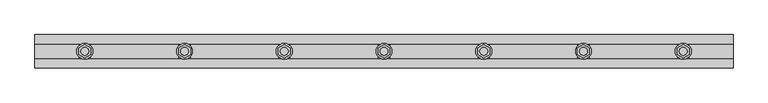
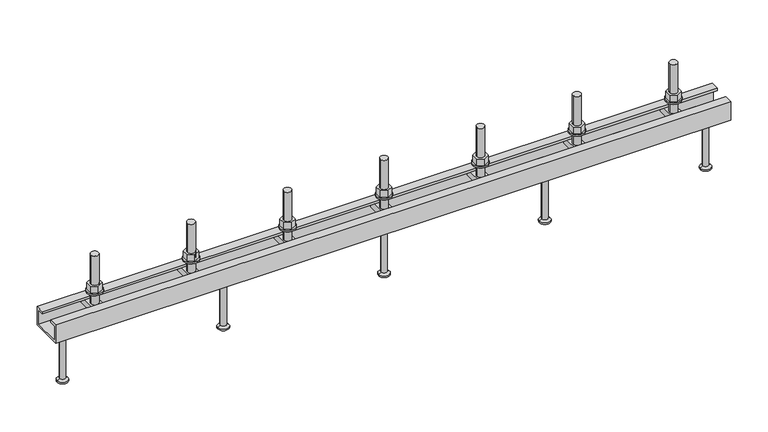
"""IFC4 building model written with IfcOpenShell, lengths in millimetres: fastener geometry, JTA-W JORDAHL® AnchorChannels : JTA-W L=1050 mm."""

from ifc_helpers import new_model, si_unit, point, frame, frame_2d, origin, place, context, project, spatial, polyline, circle_curve, trimmed, segment, composite_curve, outline, extrude, source, transform, mapped, element, save
from ifc_brep_helpers import plane_surface, cylinder_surface, revolved_surface, advanced_brep


def fastener_4ab2e279(model_context):
    return source(origin(), model_context, "Body", "SolidModel", [
        extrude(outline(polyline([(825.0, -10.3923048), (816.0, -5.1961524), (816.0, 5.1961524), (825.0, 10.3923048), (834.0, 5.1961524), (834.0, -5.1961524), (825.0, -10.3923048)]), holes=[composite_curve([segment(trimmed(circle_curve(frame_2d((825.0, 0.0)), 6.0), [point((819.0, 0.0))], [point((831.0, 0.0))], True, "CARTESIAN"), True, "CONTINUOUS"), segment(trimmed(circle_curve(frame_2d((825.0, 0.0)), 6.0), [point((831.0, 0.0))], [point((819.0, 0.0))], True, "CARTESIAN"), True, "CONTINUOUS")], self_intersect=False)]), frame((0.0, 0.0, 17.5), z_axis=(0.0, 0.0, 1.0), x_axis=(1.0, 0.0, 0.0)), (0.0, 0.0, 1.0), 10.8),
        extrude(outline(composite_curve([segment(trimmed(circle_curve(frame_2d((825.0, 0.0)), 12.0), [point((813.0, 0.0))], [point((837.0, 0.0))], False, "CARTESIAN"), True, "CONTINUOUS"), segment(trimmed(circle_curve(frame_2d((825.0, 0.0)), 12.0), [point((837.0, 0.0))], [point((813.0, 0.0))], False, "CARTESIAN"), True, "CONTINUOUS")], self_intersect=False), holes=[composite_curve([segment(trimmed(circle_curve(frame_2d((825.0, 0.0)), 6.5), [point((818.5, 0.0))], [point((831.5, 0.0))], True, "CARTESIAN"), True, "CONTINUOUS"), segment(trimmed(circle_curve(frame_2d((825.0, 0.0)), 6.5), [point((831.5, 0.0))], [point((818.5, 0.0))], True, "CARTESIAN"), True, "CONTINUOUS")], self_intersect=False)]), frame((0.0, 0.0, 15.0), z_axis=(0.0, 0.0, 1.0), x_axis=(1.0, 0.0, 0.0)), (0.0, 0.0, 1.0), 2.5),
        extrude(outline(polyline([(675.0, -10.3923048), (666.0, -5.1961524), (666.0, 5.1961524), (675.0, 10.3923048), (684.0, 5.1961524), (684.0, -5.1961524), (675.0, -10.3923048)]), holes=[composite_curve([segment(trimmed(circle_curve(frame_2d((675.0, 0.0)), 6.0), [point((669.0, 0.0))], [point((681.0, 0.0))], True, "CARTESIAN"), True, "CONTINUOUS"), segment(trimmed(circle_curve(frame_2d((675.0, 0.0)), 6.0), [point((681.0, 0.0))], [point((669.0, 0.0))], True, "CARTESIAN"), True, "CONTINUOUS")], self_intersect=False)]), frame((0.0, 0.0, 17.5), z_axis=(0.0, 0.0, 1.0), x_axis=(1.0, 0.0, 0.0)), (0.0, 0.0, 1.0), 10.8),
        extrude(outline(composite_curve([segment(trimmed(circle_curve(frame_2d((675.0, 0.0)), 12.0), [point((663.0, 0.0))], [point((687.0, 0.0))], False, "CARTESIAN"), True, "CONTINUOUS"), segment(trimmed(circle_curve(frame_2d((675.0, 0.0)), 12.0), [point((687.0, 0.0))], [point((663.0, 0.0))], False, "CARTESIAN"), True, "CONTINUOUS")], self_intersect=False), holes=[composite_curve([segment(trimmed(circle_curve(frame_2d((675.0, 0.0)), 6.5), [point((668.5, 0.0))], [point((681.5, 0.0))], True, "CARTESIAN"), True, "CONTINUOUS"), segment(trimmed(circle_curve(frame_2d((675.0, 0.0)), 6.5), [point((681.5, 0.0))], [point((668.5, 0.0))], True, "CARTESIAN"), True, "CONTINUOUS")], self_intersect=False)]), frame((0.0, 0.0, 15.0), z_axis=(0.0, 0.0, 1.0), x_axis=(1.0, 0.0, 0.0)), (0.0, 0.0, 1.0), 2.5),
        extrude(outline(polyline([(525.0, -10.3923048), (516.0, -5.1961524), (516.0, 5.1961524), (525.0, 10.3923048), (534.0, 5.1961524), (534.0, -5.1961524), (525.0, -10.3923048)]), holes=[composite_curve([segment(trimmed(circle_curve(frame_2d((525.0, 0.0)), 6.0), [point((519.0, 0.0))], [point((531.0, 0.0))], True, "CARTESIAN"), True, "CONTINUOUS"), segment(trimmed(circle_curve(frame_2d((525.0, 0.0)), 6.0), [point((531.0, 0.0))], [point((519.0, 0.0))], True, "CARTESIAN"), True, "CONTINUOUS")], self_intersect=False)]), frame((0.0, 0.0, 17.5), z_axis=(0.0, 0.0, 1.0), x_axis=(1.0, 0.0, 0.0)), (0.0, 0.0, 1.0), 10.8),
        extrude(outline(composite_curve([segment(trimmed(circle_curve(frame_2d((525.0, 0.0)), 12.0), [point((513.0, 0.0))], [point((537.0, 0.0))], False, "CARTESIAN"), True, "CONTINUOUS"), segment(trimmed(circle_curve(frame_2d((525.0, 0.0)), 12.0), [point((537.0, 0.0))], [point((513.0, 0.0))], False, "CARTESIAN"), True, "CONTINUOUS")], self_intersect=False), holes=[composite_curve([segment(trimmed(circle_curve(frame_2d((525.0, 0.0)), 6.5), [point((518.5, 0.0))], [point((531.5, 0.0))], True, "CARTESIAN"), True, "CONTINUOUS"), segment(trimmed(circle_curve(frame_2d((525.0, 0.0)), 6.5), [point((531.5, 0.0))], [point((518.5, 0.0))], True, "CARTESIAN"), True, "CONTINUOUS")], self_intersect=False)]), frame((0.0, 0.0, 15.0), z_axis=(0.0, 0.0, 1.0), x_axis=(1.0, 0.0, 0.0)), (0.0, 0.0, 1.0), 2.5),
        extrude(outline(polyline([(375.0, -10.3923048), (366.0, -5.1961524), (366.0, 5.1961524), (375.0, 10.3923048), (384.0, 5.1961524), (384.0, -5.1961524), (375.0, -10.3923048)]), holes=[composite_curve([segment(trimmed(circle_curve(frame_2d((375.0, 0.0)), 6.0), [point((369.0, 0.0))], [point((381.0, 0.0))], True, "CARTESIAN"), True, "CONTINUOUS"), segment(trimmed(circle_curve(frame_2d((375.0, 0.0)), 6.0), [point((381.0, 0.0))], [point((369.0, 0.0))], True, "CARTESIAN"), True, "CONTINUOUS")], self_intersect=False)]), frame((0.0, 0.0, 17.5), z_axis=(0.0, 0.0, 1.0), x_axis=(1.0, 0.0, 0.0)), (0.0, 0.0, 1.0), 10.8),
        extrude(outline(composite_curve([segment(trimmed(circle_curve(frame_2d((375.0, 0.0)), 12.0), [point((363.0, 0.0))], [point((387.0, 0.0))], False, "CARTESIAN"), True, "CONTINUOUS"), segment(trimmed(circle_curve(frame_2d((375.0, 0.0)), 12.0), [point((387.0, 0.0))], [point((363.0, 0.0))], False, "CARTESIAN"), True, "CONTINUOUS")], self_intersect=False), holes=[composite_curve([segment(trimmed(circle_curve(frame_2d((375.0, 0.0)), 6.5), [point((368.5, 0.0))], [point((381.5, 0.0))], True, "CARTESIAN"), True, "CONTINUOUS"), segment(trimmed(circle_curve(frame_2d((375.0, 0.0)), 6.5), [point((381.5, 0.0))], [point((368.5, 0.0))], True, "CARTESIAN"), True, "CONTINUOUS")], self_intersect=False)]), frame((0.0, 0.0, 15.0), z_axis=(0.0, 0.0, 1.0), x_axis=(1.0, 0.0, 0.0)), (0.0, 0.0, 1.0), 2.5),
        extrude(outline(polyline([(225.0, -10.3923048), (216.0, -5.1961524), (216.0, 5.1961524), (225.0, 10.3923048), (234.0, 5.1961524), (234.0, -5.1961524), (225.0, -10.3923048)]), holes=[composite_curve([segment(trimmed(circle_curve(frame_2d((225.0, 0.0)), 6.0), [point((219.0, 0.0))], [point((231.0, 0.0))], True, "CARTESIAN"), True, "CONTINUOUS"), segment(trimmed(circle_curve(frame_2d((225.0, 0.0)), 6.0), [point((231.0, 0.0))], [point((219.0, 0.0))], True, "CARTESIAN"), True, "CONTINUOUS")], self_intersect=False)]), frame((0.0, 0.0, 17.5), z_axis=(0.0, 0.0, 1.0), x_axis=(1.0, 0.0, 0.0)), (0.0, 0.0, 1.0), 10.8),
        extrude(outline(composite_curve([segment(trimmed(circle_curve(frame_2d((225.0, 0.0)), 12.0), [point((213.0, 0.0))], [point((237.0, 0.0))], False, "CARTESIAN"), True, "CONTINUOUS"), segment(trimmed(circle_curve(frame_2d((225.0, 0.0)), 12.0), [point((237.0, 0.0))], [point((213.0, 0.0))], False, "CARTESIAN"), True, "CONTINUOUS")], self_intersect=False), holes=[composite_curve([segment(trimmed(circle_curve(frame_2d((225.0, 0.0)), 6.5), [point((218.5, 0.0))], [point((231.5, 0.0))], True, "CARTESIAN"), True, "CONTINUOUS"), segment(trimmed(circle_curve(frame_2d((225.0, 0.0)), 6.5), [point((231.5, 0.0))], [point((218.5, 0.0))], True, "CARTESIAN"), True, "CONTINUOUS")], self_intersect=False)]), frame((0.0, 0.0, 15.0), z_axis=(0.0, 0.0, 1.0), x_axis=(1.0, 0.0, 0.0)), (0.0, 0.0, 1.0), 2.5),
        advanced_brep(
        [(833.5, -20.7, -4.0), (833.5, -20.7, -14.0), (833.5, 20.7, -14.0), (833.5, 20.7, -4.0), (816.5, -20.7, -4.0), (816.5, 20.7, -4.0), (816.5, 20.7, -14.0), (816.5, -20.7, -14.0), (831.0, 0.0, -4.0), (819.0, 0.0, -4.0), (819.0, 0.0, 76.0), (831.0, 0.0, 76.0)],
        [
            (0, 1),
            (1, 2),
            (2, 3),
            (3, 0),
            (4, 5),
            (5, 6),
            (6, 7),
            (7, 4),
            (3, 5),
            (4, 0),
            (8, 9, circle_curve(frame((825.0, 0.0, -4.0), z_axis=(0.0, 0.0, -1.0), x_axis=(1.0, 0.0, 0.0)), 6.0)),
            (9, 8, circle_curve(frame((825.0, 0.0, -4.0), z_axis=(0.0, 0.0, -1.0), x_axis=(1.0, 0.0, 0.0)), 6.0)),
            (2, 6),
            (1, 7),
            (10, 11, circle_curve(frame((825.0, 0.0, 76.0), z_axis=(0.0, 0.0, 1.0), x_axis=(1.0, 0.0, 0.0)), 6.0)),
            (11, 10, circle_curve(frame((825.0, 0.0, 76.0), z_axis=(0.0, 0.0, 1.0), x_axis=(1.0, 0.0, 0.0)), 6.0)),
            (11, 8),
            (9, 10),
        ],
        [
            plane_surface(frame((833.5, 20.7, -4.0), z_axis=(1.0, 0.0, 0.0), x_axis=(0.0, 1.0, 0.0))),
            plane_surface(frame((816.5, 20.7, -4.0), z_axis=(-1.0, 0.0, 0.0), x_axis=(0.0, -1.0, 0.0))),
            plane_surface(frame((833.5, -20.7, -4.0), z_axis=(0.0, 0.0, 1.0), x_axis=(-1.0, 0.0, 0.0))),
            plane_surface(frame((833.5, 20.7, -4.0), z_axis=(0.0, 1.0, 0.0), x_axis=(-1.0, 0.0, 0.0))),
            plane_surface(frame((833.5, 20.7, -14.0), z_axis=(0.0, 0.0, -1.0), x_axis=(-1.0, 0.0, 0.0))),
            plane_surface(frame((833.5, -20.7, -14.0), z_axis=(0.0, -1.0, 0.0), x_axis=(-1.0, 0.0, 0.0))),
            plane_surface(frame((831.0, 0.0, 76.0), z_axis=(0.0, 0.0, 1.0), x_axis=(0.0, -1.0, 0.0))),
            cylinder_surface(frame((825.0, 0.0, -4.0), z_axis=(0.0, 0.0, 1.0), x_axis=(1.0, 0.0, 0.0)), 6.0),
        ],
        [
            (0, [[1, 2, 3, 4]]),
            (1, [[5, 6, 7, 8]]),
            (2, [[9, -5, 10, -4], [11, 12]]),
            (3, [[13, -6, -9, -3]]),
            (4, [[14, -7, -13, -2]]),
            (5, [[-10, -8, -14, -1]]),
            (6, [[15, 16]]),
            (7, [[17, -12, 18, -16]]),
            (7, [[-18, -11, -17, -15]]),
        ],
    ),
        advanced_brep(
        [(683.5, -20.7, -4.0), (683.5, -20.7, -14.0), (683.5, 20.7, -14.0), (683.5, 20.7, -4.0), (666.5, -20.7, -4.0), (666.5, 20.7, -4.0), (666.5, 20.7, -14.0), (666.5, -20.7, -14.0), (681.0, 0.0, -4.0), (669.0, 0.0, -4.0), (669.0, 0.0, 76.0), (681.0, 0.0, 76.0)],
        [
            (0, 1),
            (1, 2),
            (2, 3),
            (3, 0),
            (4, 5),
            (5, 6),
            (6, 7),
            (7, 4),
            (3, 5),
            (4, 0),
            (8, 9, circle_curve(frame((675.0, 0.0, -4.0), z_axis=(0.0, 0.0, -1.0), x_axis=(1.0, 0.0, 0.0)), 6.0)),
            (9, 8, circle_curve(frame((675.0, 0.0, -4.0), z_axis=(0.0, 0.0, -1.0), x_axis=(1.0, 0.0, 0.0)), 6.0)),
            (2, 6),
            (1, 7),
            (10, 11, circle_curve(frame((675.0, 0.0, 76.0), z_axis=(0.0, 0.0, 1.0), x_axis=(1.0, 0.0, 0.0)), 6.0)),
            (11, 10, circle_curve(frame((675.0, 0.0, 76.0), z_axis=(0.0, 0.0, 1.0), x_axis=(1.0, 0.0, 0.0)), 6.0)),
            (11, 8),
            (9, 10),
        ],
        [
            plane_surface(frame((683.5, 20.7, -4.0), z_axis=(1.0, 0.0, 0.0), x_axis=(0.0, 1.0, 0.0))),
            plane_surface(frame((666.5, 20.7, -4.0), z_axis=(-1.0, 0.0, 0.0), x_axis=(0.0, -1.0, 0.0))),
            plane_surface(frame((683.5, -20.7, -4.0), z_axis=(0.0, 0.0, 1.0), x_axis=(-1.0, 0.0, 0.0))),
            plane_surface(frame((683.5, 20.7, -4.0), z_axis=(0.0, 1.0, 0.0), x_axis=(-1.0, 0.0, 0.0))),
            plane_surface(frame((683.5, 20.7, -14.0), z_axis=(0.0, 0.0, -1.0), x_axis=(-1.0, 0.0, 0.0))),
            plane_surface(frame((683.5, -20.7, -14.0), z_axis=(0.0, -1.0, 0.0), x_axis=(-1.0, 0.0, 0.0))),
            plane_surface(frame((681.0, 0.0, 76.0), z_axis=(0.0, 0.0, 1.0), x_axis=(0.0, -1.0, 0.0))),
            cylinder_surface(frame((675.0, 0.0, -4.0), z_axis=(0.0, 0.0, 1.0), x_axis=(1.0, 0.0, 0.0)), 6.0),
        ],
        [
            (0, [[1, 2, 3, 4]]),
            (1, [[5, 6, 7, 8]]),
            (2, [[9, -5, 10, -4], [11, 12]]),
            (3, [[13, -6, -9, -3]]),
            (4, [[14, -7, -13, -2]]),
            (5, [[-10, -8, -14, -1]]),
            (6, [[15, 16]]),
            (7, [[17, -12, 18, -16]]),
            (7, [[-18, -11, -17, -15]]),
        ],
    ),
        advanced_brep(
        [(533.5, -20.7, -4.0), (533.5, -20.7, -14.0), (533.5, 20.7, -14.0), (533.5, 20.7, -4.0), (516.5, -20.7, -4.0), (516.5, 20.7, -4.0), (516.5, 20.7, -14.0), (516.5, -20.7, -14.0), (531.0, 0.0, -4.0), (519.0, 0.0, -4.0), (519.0, 0.0, 76.0), (531.0, 0.0, 76.0)],
        [
            (0, 1),
            (1, 2),
            (2, 3),
            (3, 0),
            (4, 5),
            (5, 6),
            (6, 7),
            (7, 4),
            (3, 5),
            (4, 0),
            (8, 9, circle_curve(frame((525.0, 0.0, -4.0), z_axis=(0.0, 0.0, -1.0), x_axis=(1.0, 0.0, 0.0)), 6.0)),
            (9, 8, circle_curve(frame((525.0, 0.0, -4.0), z_axis=(0.0, 0.0, -1.0), x_axis=(1.0, 0.0, 0.0)), 6.0)),
            (2, 6),
            (1, 7),
            (10, 11, circle_curve(frame((525.0, 0.0, 76.0), z_axis=(0.0, 0.0, 1.0), x_axis=(1.0, 0.0, 0.0)), 6.0)),
            (11, 10, circle_curve(frame((525.0, 0.0, 76.0), z_axis=(0.0, 0.0, 1.0), x_axis=(1.0, 0.0, 0.0)), 6.0)),
            (11, 8),
            (9, 10),
        ],
        [
            plane_surface(frame((533.5, 20.7, -4.0), z_axis=(1.0, 0.0, 0.0), x_axis=(0.0, 1.0, 0.0))),
            plane_surface(frame((516.5, 20.7, -4.0), z_axis=(-1.0, 0.0, 0.0), x_axis=(0.0, -1.0, 0.0))),
            plane_surface(frame((533.5, -20.7, -4.0), z_axis=(0.0, 0.0, 1.0), x_axis=(-1.0, 0.0, 0.0))),
            plane_surface(frame((533.5, 20.7, -4.0), z_axis=(0.0, 1.0, 0.0), x_axis=(-1.0, 0.0, 0.0))),
            plane_surface(frame((533.5, 20.7, -14.0), z_axis=(0.0, 0.0, -1.0), x_axis=(-1.0, 0.0, 0.0))),
            plane_surface(frame((533.5, -20.7, -14.0), z_axis=(0.0, -1.0, 0.0), x_axis=(-1.0, 0.0, 0.0))),
            plane_surface(frame((531.0, 0.0, 76.0), z_axis=(0.0, 0.0, 1.0), x_axis=(0.0, -1.0, 0.0))),
            cylinder_surface(frame((525.0, 0.0, -4.0), z_axis=(0.0, 0.0, 1.0), x_axis=(1.0, 0.0, 0.0)), 6.0),
        ],
        [
            (0, [[1, 2, 3, 4]]),
            (1, [[5, 6, 7, 8]]),
            (2, [[9, -5, 10, -4], [11, 12]]),
            (3, [[13, -6, -9, -3]]),
            (4, [[14, -7, -13, -2]]),
            (5, [[-10, -8, -14, -1]]),
            (6, [[15, 16]]),
            (7, [[17, -12, 18, -16]]),
            (7, [[-18, -11, -17, -15]]),
        ],
    ),
        advanced_brep(
        [(383.5, -20.7, -4.0), (383.5, -20.7, -14.0), (383.5, 20.7, -14.0), (383.5, 20.7, -4.0), (366.5, -20.7, -4.0), (366.5, 20.7, -4.0), (366.5, 20.7, -14.0), (366.5, -20.7, -14.0), (381.0, 0.0, -4.0), (369.0, 0.0, -4.0), (369.0, 0.0, 76.0), (381.0, 0.0, 76.0)],
        [
            (0, 1),
            (1, 2),
            (2, 3),
            (3, 0),
            (4, 5),
            (5, 6),
            (6, 7),
            (7, 4),
            (3, 5),
            (4, 0),
            (8, 9, circle_curve(frame((375.0, 0.0, -4.0), z_axis=(0.0, 0.0, -1.0), x_axis=(1.0, 0.0, 0.0)), 6.0)),
            (9, 8, circle_curve(frame((375.0, 0.0, -4.0), z_axis=(0.0, 0.0, -1.0), x_axis=(1.0, 0.0, 0.0)), 6.0)),
            (2, 6),
            (1, 7),
            (10, 11, circle_curve(frame((375.0, 0.0, 76.0), z_axis=(0.0, 0.0, 1.0), x_axis=(1.0, 0.0, 0.0)), 6.0)),
            (11, 10, circle_curve(frame((375.0, 0.0, 76.0), z_axis=(0.0, 0.0, 1.0), x_axis=(1.0, 0.0, 0.0)), 6.0)),
            (11, 8),
            (9, 10),
        ],
        [
            plane_surface(frame((383.5, 20.7, -4.0), z_axis=(1.0, 0.0, 0.0), x_axis=(0.0, 1.0, 0.0))),
            plane_surface(frame((366.5, 20.7, -4.0), z_axis=(-1.0, 0.0, 0.0), x_axis=(0.0, -1.0, 0.0))),
            plane_surface(frame((383.5, -20.7, -4.0), z_axis=(0.0, 0.0, 1.0), x_axis=(-1.0, 0.0, 0.0))),
            plane_surface(frame((383.5, 20.7, -4.0), z_axis=(0.0, 1.0, 0.0), x_axis=(-1.0, 0.0, 0.0))),
            plane_surface(frame((383.5, 20.7, -14.0), z_axis=(0.0, 0.0, -1.0), x_axis=(-1.0, 0.0, 0.0))),
            plane_surface(frame((383.5, -20.7, -14.0), z_axis=(0.0, -1.0, 0.0), x_axis=(-1.0, 0.0, 0.0))),
            plane_surface(frame((381.0, 0.0, 76.0), z_axis=(0.0, 0.0, 1.0), x_axis=(0.0, -1.0, 0.0))),
            cylinder_surface(frame((375.0, 0.0, -4.0), z_axis=(0.0, 0.0, 1.0), x_axis=(1.0, 0.0, 0.0)), 6.0),
        ],
        [
            (0, [[1, 2, 3, 4]]),
            (1, [[5, 6, 7, 8]]),
            (2, [[9, -5, 10, -4], [11, 12]]),
            (3, [[13, -6, -9, -3]]),
            (4, [[14, -7, -13, -2]]),
            (5, [[-10, -8, -14, -1]]),
            (6, [[15, 16]]),
            (7, [[17, -12, 18, -16]]),
            (7, [[-18, -11, -17, -15]]),
        ],
    ),
        advanced_brep(
        [(233.5, -20.7, -4.0), (233.5, -20.7, -14.0), (233.5, 20.7, -14.0), (233.5, 20.7, -4.0), (216.5, -20.7, -4.0), (216.5, 20.7, -4.0), (216.5, 20.7, -14.0), (216.5, -20.7, -14.0), (231.0, 0.0, -4.0), (219.0, 0.0, -4.0), (219.0, 0.0, 76.0), (231.0, 0.0, 76.0)],
        [
            (0, 1),
            (1, 2),
            (2, 3),
            (3, 0),
            (4, 5),
            (5, 6),
            (6, 7),
            (7, 4),
            (3, 5),
            (4, 0),
            (8, 9, circle_curve(frame((225.0, 0.0, -4.0), z_axis=(0.0, 0.0, -1.0), x_axis=(1.0, 0.0, 0.0)), 6.0)),
            (9, 8, circle_curve(frame((225.0, 0.0, -4.0), z_axis=(0.0, 0.0, -1.0), x_axis=(1.0, 0.0, 0.0)), 6.0)),
            (2, 6),
            (1, 7),
            (10, 11, circle_curve(frame((225.0, 0.0, 76.0), z_axis=(0.0, 0.0, 1.0), x_axis=(1.0, 0.0, 0.0)), 6.0)),
            (11, 10, circle_curve(frame((225.0, 0.0, 76.0), z_axis=(0.0, 0.0, 1.0), x_axis=(1.0, 0.0, 0.0)), 6.0)),
            (11, 8),
            (9, 10),
        ],
        [
            plane_surface(frame((233.5, 20.7, -4.0), z_axis=(1.0, 0.0, 0.0), x_axis=(0.0, 1.0, 0.0))),
            plane_surface(frame((216.5, 20.7, -4.0), z_axis=(-1.0, 0.0, 0.0), x_axis=(0.0, -1.0, 0.0))),
            plane_surface(frame((233.5, -20.7, -4.0), z_axis=(0.0, 0.0, 1.0), x_axis=(-1.0, 0.0, 0.0))),
            plane_surface(frame((233.5, 20.7, -4.0), z_axis=(0.0, 1.0, 0.0), x_axis=(-1.0, 0.0, 0.0))),
            plane_surface(frame((233.5, 20.7, -14.0), z_axis=(0.0, 0.0, -1.0), x_axis=(-1.0, 0.0, 0.0))),
            plane_surface(frame((233.5, -20.7, -14.0), z_axis=(0.0, -1.0, 0.0), x_axis=(-1.0, 0.0, 0.0))),
            plane_surface(frame((231.0, 0.0, 76.0), z_axis=(0.0, 0.0, 1.0), x_axis=(0.0, -1.0, 0.0))),
            cylinder_surface(frame((225.0, 0.0, -4.0), z_axis=(0.0, 0.0, 1.0), x_axis=(1.0, 0.0, 0.0)), 6.0),
        ],
        [
            (0, [[1, 2, 3, 4]]),
            (1, [[5, 6, 7, 8]]),
            (2, [[9, -5, 10, -4], [11, 12]]),
            (3, [[13, -6, -9, -3]]),
            (4, [[14, -7, -13, -2]]),
            (5, [[-10, -8, -14, -1]]),
            (6, [[15, 16]]),
            (7, [[17, -12, 18, -16]]),
            (7, [[-18, -11, -17, -15]]),
        ],
    ),
        advanced_brep(
        [(775.0, 0.0, -30.0), (761.5, 0.0, -30.0), (788.5, 0.0, -30.0), (766.5, 0.0, -115.0), (775.0, 0.0, -115.0), (783.5, 0.0, -115.0), (766.5, 0.0, -113.0), (783.5, 0.0, -113.0), (770.5, 0.0, -110.6905989), (779.5, 0.0, -110.6905989), (770.5, 0.0, -32.5), (779.5, 0.0, -32.5)],
        [
            (0, 1),
            (1, 2, circle_curve(frame((775.0, 0.0, -30.0), z_axis=(0.0, 0.0, 1.0), x_axis=(1.0, 0.0, 0.0)), 13.5)),
            (2, 0),
            (2, 1, circle_curve(frame((775.0, 0.0, -30.0), z_axis=(0.0, 0.0, 1.0), x_axis=(1.0, 0.0, 0.0)), 13.5)),
            (3, 4),
            (4, 5),
            (5, 3, circle_curve(frame((775.0, 0.0, -115.0), z_axis=(0.0, 0.0, -1.0), x_axis=(1.0, 0.0, 0.0)), 8.5)),
            (3, 5, circle_curve(frame((775.0, 0.0, -115.0), z_axis=(0.0, 0.0, -1.0), x_axis=(1.0, 0.0, 0.0)), 8.5)),
            (6, 3),
            (5, 7),
            (7, 6, circle_curve(frame((775.0, 0.0, -113.0), z_axis=(0.0, 0.0, -1.0), x_axis=(1.0, 0.0, 0.0)), 8.5)),
            (6, 7, circle_curve(frame((775.0, 0.0, -113.0), z_axis=(0.0, 0.0, -1.0), x_axis=(1.0, 0.0, 0.0)), 8.5)),
            (8, 6),
            (7, 9),
            (9, 8, circle_curve(frame((775.0, 0.0, -110.6905989), z_axis=(0.0, 0.0, -1.0), x_axis=(1.0, 0.0, 0.0)), 4.5)),
            (8, 9, circle_curve(frame((775.0, 0.0, -110.6905989), z_axis=(0.0, 0.0, -1.0), x_axis=(1.0, 0.0, 0.0)), 4.5)),
            (10, 8),
            (9, 11),
            (11, 10, circle_curve(frame((775.0, 0.0, -32.5), z_axis=(0.0, 0.0, -1.0), x_axis=(1.0, 0.0, 0.0)), 4.5)),
            (10, 11, circle_curve(frame((775.0, 0.0, -32.5), z_axis=(0.0, 0.0, -1.0), x_axis=(1.0, 0.0, 0.0)), 4.5)),
            (1, 10),
            (11, 2),
        ],
        [
            plane_surface(frame((775.0, 0.0, -30.0), z_axis=(0.0, 0.0, 1.0), x_axis=(1.0, 0.0, 0.0))),
            plane_surface(frame((775.0, 0.0, -115.0), z_axis=(0.0, 0.0, -1.0), x_axis=(1.0, 0.0, 0.0))),
            cylinder_surface(frame((775.0, 0.0, 2299.3150031), z_axis=(0.0, 0.0, 1.0), x_axis=(1.0, 0.0, 0.0)), 8.5),
            revolved_surface(polyline([(783.5, 0.0, -113.0), (779.5, 0.0, -110.6905989)]), (775.0, 0.0, 2299.3150031), (0.0, 0.0, 1.0)),
            cylinder_surface(frame((775.0, 0.0, 2299.3150031), z_axis=(0.0, 0.0, 1.0), x_axis=(1.0, 0.0, 0.0)), 4.5),
            revolved_surface(polyline([(779.5, 0.0, -32.5), (788.5, 0.0, -30.0)]), (775.0, 0.0, 2299.3150031), (0.0, 0.0, 1.0)),
        ],
        [
            (0, [[1, 2, 3]]),
            (0, [[-3, 4, -1]]),
            (1, [[5, 6, 7]]),
            (1, [[-6, -5, 8]]),
            (2, [[9, -7, 10, 11]]),
            (2, [[-10, -8, -9, 12]]),
            (3, [[13, -11, 14, 15]]),
            (3, [[-14, -12, -13, 16]]),
            (4, [[17, -15, 18, 19]]),
            (4, [[-18, -16, -17, 20]]),
            (5, [[21, -19, 22, -2]]),
            (5, [[-22, -20, -21, -4]]),
        ],
    ),
        advanced_brep(
        [(525.0, 0.0, -30.0), (511.5, 0.0, -30.0), (538.5, 0.0, -30.0), (516.5, 0.0, -115.0), (525.0, 0.0, -115.0), (533.5, 0.0, -115.0), (516.5, 0.0, -113.0), (533.5, 0.0, -113.0), (520.5, 0.0, -110.6905989), (529.5, 0.0, -110.6905989), (520.5, 0.0, -32.5), (529.5, 0.0, -32.5)],
        [
            (0, 1),
            (1, 2, circle_curve(frame((525.0, 0.0, -30.0), z_axis=(0.0, 0.0, 1.0), x_axis=(1.0, 0.0, 0.0)), 13.5)),
            (2, 0),
            (2, 1, circle_curve(frame((525.0, 0.0, -30.0), z_axis=(0.0, 0.0, 1.0), x_axis=(1.0, 0.0, 0.0)), 13.5)),
            (3, 4),
            (4, 5),
            (5, 3, circle_curve(frame((525.0, 0.0, -115.0), z_axis=(0.0, 0.0, -1.0), x_axis=(1.0, 0.0, 0.0)), 8.5)),
            (3, 5, circle_curve(frame((525.0, 0.0, -115.0), z_axis=(0.0, 0.0, -1.0), x_axis=(1.0, 0.0, 0.0)), 8.5)),
            (6, 3),
            (5, 7),
            (7, 6, circle_curve(frame((525.0, 0.0, -113.0), z_axis=(0.0, 0.0, -1.0), x_axis=(1.0, 0.0, 0.0)), 8.5)),
            (6, 7, circle_curve(frame((525.0, 0.0, -113.0), z_axis=(0.0, 0.0, -1.0), x_axis=(1.0, 0.0, 0.0)), 8.5)),
            (8, 6),
            (7, 9),
            (9, 8, circle_curve(frame((525.0, 0.0, -110.6905989), z_axis=(0.0, 0.0, -1.0), x_axis=(1.0, 0.0, 0.0)), 4.5)),
            (8, 9, circle_curve(frame((525.0, 0.0, -110.6905989), z_axis=(0.0, 0.0, -1.0), x_axis=(1.0, 0.0, 0.0)), 4.5)),
            (10, 8),
            (9, 11),
            (11, 10, circle_curve(frame((525.0, 0.0, -32.5), z_axis=(0.0, 0.0, -1.0), x_axis=(1.0, 0.0, 0.0)), 4.5)),
            (10, 11, circle_curve(frame((525.0, 0.0, -32.5), z_axis=(0.0, 0.0, -1.0), x_axis=(1.0, 0.0, 0.0)), 4.5)),
            (1, 10),
            (11, 2),
        ],
        [
            plane_surface(frame((525.0, 0.0, -30.0), z_axis=(0.0, 0.0, 1.0), x_axis=(1.0, 0.0, 0.0))),
            plane_surface(frame((525.0, 0.0, -115.0), z_axis=(0.0, 0.0, -1.0), x_axis=(1.0, 0.0, 0.0))),
            cylinder_surface(frame((525.0, 0.0, 2299.3150031), z_axis=(0.0, 0.0, 1.0), x_axis=(1.0, 0.0, 0.0)), 8.5),
            revolved_surface(polyline([(533.5, 0.0, -113.0), (529.5, 0.0, -110.6905989)]), (525.0, 0.0, 2299.3150031), (0.0, 0.0, 1.0)),
            cylinder_surface(frame((525.0, 0.0, 2299.3150031), z_axis=(0.0, 0.0, 1.0), x_axis=(1.0, 0.0, 0.0)), 4.5),
            revolved_surface(polyline([(529.5, 0.0, -32.5), (538.5, 0.0, -30.0)]), (525.0, 0.0, 2299.3150031), (0.0, 0.0, 1.0)),
        ],
        [
            (0, [[1, 2, 3]]),
            (0, [[-3, 4, -1]]),
            (1, [[5, 6, 7]]),
            (1, [[-6, -5, 8]]),
            (2, [[9, -7, 10, 11]]),
            (2, [[-10, -8, -9, 12]]),
            (3, [[13, -11, 14, 15]]),
            (3, [[-14, -12, -13, 16]]),
            (4, [[17, -15, 18, 19]]),
            (4, [[-18, -16, -17, 20]]),
            (5, [[21, -19, 22, -2]]),
            (5, [[-22, -20, -21, -4]]),
        ],
    ),
        advanced_brep(
        [(275.0, 0.0, -30.0), (261.5, 0.0, -30.0), (288.5, 0.0, -30.0), (266.5, 0.0, -115.0), (275.0, 0.0, -115.0), (283.5, 0.0, -115.0), (266.5, 0.0, -113.0), (283.5, 0.0, -113.0), (270.5, 0.0, -110.6905989), (279.5, 0.0, -110.6905989), (270.5, 0.0, -32.5), (279.5, 0.0, -32.5)],
        [
            (0, 1),
            (1, 2, circle_curve(frame((275.0, 0.0, -30.0), z_axis=(0.0, 0.0, 1.0), x_axis=(1.0, 0.0, 0.0)), 13.5)),
            (2, 0),
            (2, 1, circle_curve(frame((275.0, 0.0, -30.0), z_axis=(0.0, 0.0, 1.0), x_axis=(1.0, 0.0, 0.0)), 13.5)),
            (3, 4),
            (4, 5),
            (5, 3, circle_curve(frame((275.0, 0.0, -115.0), z_axis=(0.0, 0.0, -1.0), x_axis=(1.0, 0.0, 0.0)), 8.5)),
            (3, 5, circle_curve(frame((275.0, 0.0, -115.0), z_axis=(0.0, 0.0, -1.0), x_axis=(1.0, 0.0, 0.0)), 8.5)),
            (6, 3),
            (5, 7),
            (7, 6, circle_curve(frame((275.0, 0.0, -113.0), z_axis=(0.0, 0.0, -1.0), x_axis=(1.0, 0.0, 0.0)), 8.5)),
            (6, 7, circle_curve(frame((275.0, 0.0, -113.0), z_axis=(0.0, 0.0, -1.0), x_axis=(1.0, 0.0, 0.0)), 8.5)),
            (8, 6),
            (7, 9),
            (9, 8, circle_curve(frame((275.0, 0.0, -110.6905989), z_axis=(0.0, 0.0, -1.0), x_axis=(1.0, 0.0, 0.0)), 4.5)),
            (8, 9, circle_curve(frame((275.0, 0.0, -110.6905989), z_axis=(0.0, 0.0, -1.0), x_axis=(1.0, 0.0, 0.0)), 4.5)),
            (10, 8),
            (9, 11),
            (11, 10, circle_curve(frame((275.0, 0.0, -32.5), z_axis=(0.0, 0.0, -1.0), x_axis=(1.0, 0.0, 0.0)), 4.5)),
            (10, 11, circle_curve(frame((275.0, 0.0, -32.5), z_axis=(0.0, 0.0, -1.0), x_axis=(1.0, 0.0, 0.0)), 4.5)),
            (1, 10),
            (11, 2),
        ],
        [
            plane_surface(frame((275.0, 0.0, -30.0), z_axis=(0.0, 0.0, 1.0), x_axis=(1.0, 0.0, 0.0))),
            plane_surface(frame((275.0, 0.0, -115.0), z_axis=(0.0, 0.0, -1.0), x_axis=(1.0, 0.0, 0.0))),
            cylinder_surface(frame((275.0, 0.0, 2299.3150031), z_axis=(0.0, 0.0, 1.0), x_axis=(1.0, 0.0, 0.0)), 8.5),
            revolved_surface(polyline([(283.5, 0.0, -113.0), (279.5, 0.0, -110.6905989)]), (275.0, 0.0, 2299.3150031), (0.0, 0.0, 1.0)),
            cylinder_surface(frame((275.0, 0.0, 2299.3150031), z_axis=(0.0, 0.0, 1.0), x_axis=(1.0, 0.0, 0.0)), 4.5),
            revolved_surface(polyline([(279.5, 0.0, -32.5), (288.5, 0.0, -30.0)]), (275.0, 0.0, 2299.3150031), (0.0, 0.0, 1.0)),
        ],
        [
            (0, [[1, 2, 3]]),
            (0, [[-3, 4, -1]]),
            (1, [[5, 6, 7]]),
            (1, [[-6, -5, 8]]),
            (2, [[9, -7, 10, 11]]),
            (2, [[-10, -8, -9, 12]]),
            (3, [[13, -11, 14, 15]]),
            (3, [[-14, -12, -13, 16]]),
            (4, [[17, -15, 18, 19]]),
            (4, [[-18, -16, -17, 20]]),
            (5, [[21, -19, 22, -2]]),
            (5, [[-22, -20, -21, -4]]),
        ],
    ),
        extrude(outline(polyline([(975.0, -10.3923048), (966.0, -5.1961524), (966.0, 5.1961524), (975.0, 10.3923048), (984.0, 5.1961524), (984.0, -5.1961524), (975.0, -10.3923048)]), holes=[composite_curve([segment(trimmed(circle_curve(frame_2d((975.0, 0.0)), 6.0), [point((969.0, 0.0))], [point((981.0, 0.0))], True, "CARTESIAN"), True, "CONTINUOUS"), segment(trimmed(circle_curve(frame_2d((975.0, 0.0)), 6.0), [point((981.0, 0.0))], [point((969.0, 0.0))], True, "CARTESIAN"), True, "CONTINUOUS")], self_intersect=False)]), frame((0.0, 0.0, 17.5), z_axis=(0.0, 0.0, 1.0), x_axis=(1.0, 0.0, 0.0)), (0.0, 0.0, 1.0), 10.8),
        extrude(outline(composite_curve([segment(trimmed(circle_curve(frame_2d((975.0, 0.0)), 12.0), [point((963.0, 0.0))], [point((987.0, 0.0))], False, "CARTESIAN"), True, "CONTINUOUS"), segment(trimmed(circle_curve(frame_2d((975.0, 0.0)), 12.0), [point((987.0, 0.0))], [point((963.0, 0.0))], False, "CARTESIAN"), True, "CONTINUOUS")], self_intersect=False), holes=[composite_curve([segment(trimmed(circle_curve(frame_2d((975.0, 0.0)), 6.5), [point((968.5, 0.0))], [point((981.5, 0.0))], True, "CARTESIAN"), True, "CONTINUOUS"), segment(trimmed(circle_curve(frame_2d((975.0, 0.0)), 6.5), [point((981.5, 0.0))], [point((968.5, 0.0))], True, "CARTESIAN"), True, "CONTINUOUS")], self_intersect=False)]), frame((0.0, 0.0, 15.0), z_axis=(0.0, 0.0, 1.0), x_axis=(1.0, 0.0, 0.0)), (0.0, 0.0, 1.0), 2.5),
        extrude(outline(polyline([(75.0, -10.3923048), (66.0, -5.1961524), (66.0, 5.1961524), (75.0, 10.3923048), (84.0, 5.1961524), (84.0, -5.1961524), (75.0, -10.3923048)]), holes=[composite_curve([segment(trimmed(circle_curve(frame_2d((75.0, 0.0)), 6.0), [point((69.0, 0.0))], [point((81.0, 0.0))], True, "CARTESIAN"), True, "CONTINUOUS"), segment(trimmed(circle_curve(frame_2d((75.0, 0.0)), 6.0), [point((81.0, 0.0))], [point((69.0, 0.0))], True, "CARTESIAN"), True, "CONTINUOUS")], self_intersect=False)]), frame((0.0, 0.0, 17.5), z_axis=(0.0, 0.0, 1.0), x_axis=(1.0, 0.0, 0.0)), (0.0, 0.0, 1.0), 10.8),
        extrude(outline(composite_curve([segment(trimmed(circle_curve(frame_2d((75.0, 0.0)), 12.0), [point((63.0, 0.0))], [point((87.0, 0.0))], False, "CARTESIAN"), True, "CONTINUOUS"), segment(trimmed(circle_curve(frame_2d((75.0, 0.0)), 12.0), [point((87.0, 0.0))], [point((63.0, 0.0))], False, "CARTESIAN"), True, "CONTINUOUS")], self_intersect=False), holes=[composite_curve([segment(trimmed(circle_curve(frame_2d((75.0, 0.0)), 6.5), [point((68.5, 0.0))], [point((81.5, 0.0))], True, "CARTESIAN"), True, "CONTINUOUS"), segment(trimmed(circle_curve(frame_2d((75.0, 0.0)), 6.5), [point((81.5, 0.0))], [point((68.5, 0.0))], True, "CARTESIAN"), True, "CONTINUOUS")], self_intersect=False)]), frame((0.0, 0.0, 15.0), z_axis=(0.0, 0.0, 1.0), x_axis=(1.0, 0.0, 0.0)), (0.0, 0.0, 1.0), 2.5),
        advanced_brep(
        [(983.5, -20.7, -4.0), (983.5, -20.7, -14.0), (983.5, 20.7, -14.0), (983.5, 20.7, -4.0), (966.5, -20.7, -4.0), (966.5, 20.7, -4.0), (966.5, 20.7, -14.0), (966.5, -20.7, -14.0), (981.0, 0.0, -4.0), (969.0, 0.0, -4.0), (969.0, 0.0, 76.0), (981.0, 0.0, 76.0)],
        [
            (0, 1),
            (1, 2),
            (2, 3),
            (3, 0),
            (4, 5),
            (5, 6),
            (6, 7),
            (7, 4),
            (3, 5),
            (4, 0),
            (8, 9, circle_curve(frame((975.0, 0.0, -4.0), z_axis=(0.0, 0.0, -1.0), x_axis=(1.0, 0.0, 0.0)), 6.0)),
            (9, 8, circle_curve(frame((975.0, 0.0, -4.0), z_axis=(0.0, 0.0, -1.0), x_axis=(1.0, 0.0, 0.0)), 6.0)),
            (2, 6),
            (1, 7),
            (10, 11, circle_curve(frame((975.0, 0.0, 76.0), z_axis=(0.0, 0.0, 1.0), x_axis=(1.0, 0.0, 0.0)), 6.0)),
            (11, 10, circle_curve(frame((975.0, 0.0, 76.0), z_axis=(0.0, 0.0, 1.0), x_axis=(1.0, 0.0, 0.0)), 6.0)),
            (11, 8),
            (9, 10),
        ],
        [
            plane_surface(frame((983.5, 20.7, -4.0), z_axis=(1.0, 0.0, 0.0), x_axis=(0.0, 1.0, 0.0))),
            plane_surface(frame((966.5, 20.7, -4.0), z_axis=(-1.0, 0.0, 0.0), x_axis=(0.0, -1.0, 0.0))),
            plane_surface(frame((983.5, -20.7, -4.0), z_axis=(0.0, 0.0, 1.0), x_axis=(-1.0, 0.0, 0.0))),
            plane_surface(frame((983.5, 20.7, -4.0), z_axis=(0.0, 1.0, 0.0), x_axis=(-1.0, 0.0, 0.0))),
            plane_surface(frame((983.5, 20.7, -14.0), z_axis=(0.0, 0.0, -1.0), x_axis=(-1.0, 0.0, 0.0))),
            plane_surface(frame((983.5, -20.7, -14.0), z_axis=(0.0, -1.0, 0.0), x_axis=(-1.0, 0.0, 0.0))),
            plane_surface(frame((981.0, 0.0, 76.0), z_axis=(0.0, 0.0, 1.0), x_axis=(0.0, -1.0, 0.0))),
            cylinder_surface(frame((975.0, 0.0, -4.0), z_axis=(0.0, 0.0, 1.0), x_axis=(1.0, 0.0, 0.0)), 6.0),
        ],
        [
            (0, [[1, 2, 3, 4]]),
            (1, [[5, 6, 7, 8]]),
            (2, [[9, -5, 10, -4], [11, 12]]),
            (3, [[13, -6, -9, -3]]),
            (4, [[14, -7, -13, -2]]),
            (5, [[-10, -8, -14, -1]]),
            (6, [[15, 16]]),
            (7, [[17, -12, 18, -16]]),
            (7, [[-18, -11, -17, -15]]),
        ],
    ),
        advanced_brep(
        [(83.5, -20.7, -4.0), (83.5, -20.7, -14.0), (83.5, 20.7, -14.0), (83.5, 20.7, -4.0), (66.5, -20.7, -4.0), (66.5, 20.7, -4.0), (66.5, 20.7, -14.0), (66.5, -20.7, -14.0), (81.0, 0.0, -4.0), (69.0, 0.0, -4.0), (69.0, 0.0, 76.0), (81.0, 0.0, 76.0)],
        [
            (0, 1),
            (1, 2),
            (2, 3),
            (3, 0),
            (4, 5),
            (5, 6),
            (6, 7),
            (7, 4),
            (3, 5),
            (4, 0),
            (8, 9, circle_curve(frame((75.0, 0.0, -4.0), z_axis=(0.0, 0.0, -1.0), x_axis=(1.0, 0.0, 0.0)), 6.0)),
            (9, 8, circle_curve(frame((75.0, 0.0, -4.0), z_axis=(0.0, 0.0, -1.0), x_axis=(1.0, 0.0, 0.0)), 6.0)),
            (2, 6),
            (1, 7),
            (10, 11, circle_curve(frame((75.0, 0.0, 76.0), z_axis=(0.0, 0.0, 1.0), x_axis=(1.0, 0.0, 0.0)), 6.0)),
            (11, 10, circle_curve(frame((75.0, 0.0, 76.0), z_axis=(0.0, 0.0, 1.0), x_axis=(1.0, 0.0, 0.0)), 6.0)),
            (11, 8),
            (9, 10),
        ],
        [
            plane_surface(frame((83.5, 20.7, -4.0), z_axis=(1.0, 0.0, 0.0), x_axis=(0.0, 1.0, 0.0))),
            plane_surface(frame((66.5, 20.7, -4.0), z_axis=(-1.0, 0.0, 0.0), x_axis=(0.0, -1.0, 0.0))),
            plane_surface(frame((83.5, -20.7, -4.0), z_axis=(0.0, 0.0, 1.0), x_axis=(-1.0, 0.0, 0.0))),
            plane_surface(frame((83.5, 20.7, -4.0), z_axis=(0.0, 1.0, 0.0), x_axis=(-1.0, 0.0, 0.0))),
            plane_surface(frame((83.5, 20.7, -14.0), z_axis=(0.0, 0.0, -1.0), x_axis=(-1.0, 0.0, 0.0))),
            plane_surface(frame((83.5, -20.7, -14.0), z_axis=(0.0, -1.0, 0.0), x_axis=(-1.0, 0.0, 0.0))),
            plane_surface(frame((81.0, 0.0, 76.0), z_axis=(0.0, 0.0, 1.0), x_axis=(0.0, -1.0, 0.0))),
            cylinder_surface(frame((75.0, 0.0, -4.0), z_axis=(0.0, 0.0, 1.0), x_axis=(1.0, 0.0, 0.0)), 6.0),
        ],
        [
            (0, [[1, 2, 3, 4]]),
            (1, [[5, 6, 7, 8]]),
            (2, [[9, -5, 10, -4], [11, 12]]),
            (3, [[13, -6, -9, -3]]),
            (4, [[14, -7, -13, -2]]),
            (5, [[-10, -8, -14, -1]]),
            (6, [[15, 16]]),
            (7, [[17, -12, 18, -16]]),
            (7, [[-18, -11, -17, -15]]),
        ],
    ),
        advanced_brep(
        [(1025.0, 0.0, -30.0), (1011.5, 0.0, -30.0), (1038.5, 0.0, -30.0), (1016.5, 0.0, -115.0), (1025.0, 0.0, -115.0), (1033.5, 0.0, -115.0), (1016.5, 0.0, -113.0), (1033.5, 0.0, -113.0), (1020.5, 0.0, -110.6905989), (1029.5, 0.0, -110.6905989), (1020.5, 0.0, -32.5), (1029.5, 0.0, -32.5)],
        [
            (0, 1),
            (1, 2, circle_curve(frame((1025.0, 0.0, -30.0), z_axis=(0.0, 0.0, 1.0), x_axis=(1.0, 0.0, 0.0)), 13.5)),
            (2, 0),
            (2, 1, circle_curve(frame((1025.0, 0.0, -30.0), z_axis=(0.0, 0.0, 1.0), x_axis=(1.0, 0.0, 0.0)), 13.5)),
            (3, 4),
            (4, 5),
            (5, 3, circle_curve(frame((1025.0, 0.0, -115.0), z_axis=(0.0, 0.0, -1.0), x_axis=(1.0, 0.0, 0.0)), 8.5)),
            (3, 5, circle_curve(frame((1025.0, 0.0, -115.0), z_axis=(0.0, 0.0, -1.0), x_axis=(1.0, 0.0, 0.0)), 8.5)),
            (6, 3),
            (5, 7),
            (7, 6, circle_curve(frame((1025.0, 0.0, -113.0), z_axis=(0.0, 0.0, -1.0), x_axis=(1.0, 0.0, 0.0)), 8.5)),
            (6, 7, circle_curve(frame((1025.0, 0.0, -113.0), z_axis=(0.0, 0.0, -1.0), x_axis=(1.0, 0.0, 0.0)), 8.5)),
            (8, 6),
            (7, 9),
            (9, 8, circle_curve(frame((1025.0, 0.0, -110.6905989), z_axis=(0.0, 0.0, -1.0), x_axis=(1.0, 0.0, 0.0)), 4.5)),
            (8, 9, circle_curve(frame((1025.0, 0.0, -110.6905989), z_axis=(0.0, 0.0, -1.0), x_axis=(1.0, 0.0, 0.0)), 4.5)),
            (10, 8),
            (9, 11),
            (11, 10, circle_curve(frame((1025.0, 0.0, -32.5), z_axis=(0.0, 0.0, -1.0), x_axis=(1.0, 0.0, 0.0)), 4.5)),
            (10, 11, circle_curve(frame((1025.0, 0.0, -32.5), z_axis=(0.0, 0.0, -1.0), x_axis=(1.0, 0.0, 0.0)), 4.5)),
            (1, 10),
            (11, 2),
        ],
        [
            plane_surface(frame((1025.0, 0.0, -30.0), z_axis=(0.0, 0.0, 1.0), x_axis=(1.0, 0.0, 0.0))),
            plane_surface(frame((1025.0, 0.0, -115.0), z_axis=(0.0, 0.0, -1.0), x_axis=(1.0, 0.0, 0.0))),
            cylinder_surface(frame((1025.0, 0.0, 2299.3150031), z_axis=(0.0, 0.0, 1.0), x_axis=(1.0, 0.0, 0.0)), 8.5),
            revolved_surface(polyline([(1033.5, 0.0, -113.0), (1029.5, 0.0, -110.6905989)]), (1025.0, 0.0, 2299.3150031), (0.0, 0.0, 1.0)),
            cylinder_surface(frame((1025.0, 0.0, 2299.3150031), z_axis=(0.0, 0.0, 1.0), x_axis=(1.0, 0.0, 0.0)), 4.5),
            revolved_surface(polyline([(1029.5, 0.0, -32.5), (1038.5, 0.0, -30.0)]), (1025.0, 0.0, 2299.3150031), (0.0, 0.0, 1.0)),
        ],
        [
            (0, [[1, 2, 3]]),
            (0, [[-3, 4, -1]]),
            (1, [[5, 6, 7]]),
            (1, [[-6, -5, 8]]),
            (2, [[9, -7, 10, 11]]),
            (2, [[-10, -8, -9, 12]]),
            (3, [[13, -11, 14, 15]]),
            (3, [[-14, -12, -13, 16]]),
            (4, [[17, -15, 18, 19]]),
            (4, [[-18, -16, -17, 20]]),
            (5, [[21, -19, 22, -2]]),
            (5, [[-22, -20, -21, -4]]),
        ],
    ),
        advanced_brep(
        [(25.0, 0.0, -30.0), (11.5, 0.0, -30.0), (38.5, 0.0, -30.0), (16.5, 0.0, -115.0), (25.0, 0.0, -115.0), (33.5, 0.0, -115.0), (16.5, 0.0, -113.0), (33.5, 0.0, -113.0), (20.5, 0.0, -110.6905989), (29.5, 0.0, -110.6905989), (20.5, 0.0, -32.5), (29.5, 0.0, -32.5)],
        [
            (0, 1),
            (1, 2, circle_curve(frame((25.0, 0.0, -30.0), z_axis=(0.0, 0.0, 1.0), x_axis=(1.0, 0.0, 0.0)), 13.5)),
            (2, 0),
            (2, 1, circle_curve(frame((25.0, 0.0, -30.0), z_axis=(0.0, 0.0, 1.0), x_axis=(1.0, 0.0, 0.0)), 13.5)),
            (3, 4),
            (4, 5),
            (5, 3, circle_curve(frame((25.0, 0.0, -115.0), z_axis=(0.0, 0.0, -1.0), x_axis=(1.0, 0.0, 0.0)), 8.5)),
            (3, 5, circle_curve(frame((25.0, 0.0, -115.0), z_axis=(0.0, 0.0, -1.0), x_axis=(1.0, 0.0, 0.0)), 8.5)),
            (6, 3),
            (5, 7),
            (7, 6, circle_curve(frame((25.0, 0.0, -113.0), z_axis=(0.0, 0.0, -1.0), x_axis=(1.0, 0.0, 0.0)), 8.5)),
            (6, 7, circle_curve(frame((25.0, 0.0, -113.0), z_axis=(0.0, 0.0, -1.0), x_axis=(1.0, 0.0, 0.0)), 8.5)),
            (8, 6),
            (7, 9),
            (9, 8, circle_curve(frame((25.0, 0.0, -110.6905989), z_axis=(0.0, 0.0, -1.0), x_axis=(1.0, 0.0, 0.0)), 4.5)),
            (8, 9, circle_curve(frame((25.0, 0.0, -110.6905989), z_axis=(0.0, 0.0, -1.0), x_axis=(1.0, 0.0, 0.0)), 4.5)),
            (10, 8),
            (9, 11),
            (11, 10, circle_curve(frame((25.0, 0.0, -32.5), z_axis=(0.0, 0.0, -1.0), x_axis=(1.0, 0.0, 0.0)), 4.5)),
            (10, 11, circle_curve(frame((25.0, 0.0, -32.5), z_axis=(0.0, 0.0, -1.0), x_axis=(1.0, 0.0, 0.0)), 4.5)),
            (1, 10),
            (11, 2),
        ],
        [
            plane_surface(frame((25.0, 0.0, -30.0), z_axis=(0.0, 0.0, 1.0), x_axis=(1.0, 0.0, 0.0))),
            plane_surface(frame((25.0, 0.0, -115.0), z_axis=(0.0, 0.0, -1.0), x_axis=(1.0, 0.0, 0.0))),
            cylinder_surface(frame((25.0, 0.0, 2299.3150031), z_axis=(0.0, 0.0, 1.0), x_axis=(1.0, 0.0, 0.0)), 8.5),
            revolved_surface(polyline([(33.5, 0.0, -113.0), (29.5, 0.0, -110.6905989)]), (25.0, 0.0, 2299.3150031), (0.0, 0.0, 1.0)),
            cylinder_surface(frame((25.0, 0.0, 2299.3150031), z_axis=(0.0, 0.0, 1.0), x_axis=(1.0, 0.0, 0.0)), 4.5),
            revolved_surface(polyline([(29.5, 0.0, -32.5), (38.5, 0.0, -30.0)]), (25.0, 0.0, 2299.3150031), (0.0, 0.0, 1.0)),
        ],
        [
            (0, [[1, 2, 3]]),
            (0, [[-3, 4, -1]]),
            (1, [[5, 6, 7]]),
            (1, [[-6, -5, 8]]),
            (2, [[9, -7, 10, 11]]),
            (2, [[-10, -8, -9, 12]]),
            (3, [[13, -11, 14, 15]]),
            (3, [[-14, -12, -13, 16]]),
            (4, [[17, -15, 18, 19]]),
            (4, [[-18, -16, -17, 20]]),
            (5, [[21, -19, 22, -2]]),
            (5, [[-22, -20, -21, -4]]),
        ],
    ),
        extrude(outline(polyline([(-25.0, 0.0), (-11.25, 0.0), (-11.25, -4.0), (-22.2, -4.0), (-22.2, -27.2), (22.2, -27.2), (22.2, -4.0), (11.25, -4.0), (11.25, 0.0), (25.0, 0.0), (25.0, -30.0), (-25.0, -30.0), (-25.0, 0.0)])), frame((0.0, 0.0, 0.0), z_axis=(1.0, 0.0, 0.0), x_axis=(0.0, 1.0, 0.0)), (0.0, 0.0, 1.0), 1050.0),
    ])


if __name__ == "__main__":
    model = new_model("IFC4")
    model_context = context("Model", 3, world=origin())
    ifc_project = project(units=[si_unit("LENGTHUNIT", "METRE", prefix="MILLI")], contexts=[model_context])
    site = spatial("IfcSite", under=ifc_project)
    building = spatial("IfcBuilding", under=site)
    placement = place(None, origin())
    fastener_shape = fastener_4ab2e279(model_context)
    element("IfcFastener", 1, ObjectType="JTA-W JORDAHL® AnchorChannels : JTA-W L=1050 mm", at=placement, inside=building, context=model_context, shape_type="MappedRepresentation", body=[
        mapped(fastener_shape, transform((0.0, 0.0, 0.0), x_axis=(1.0, 0.0, 0.0), y_axis=(0.0, 1.0, 0.0), z_axis=(0.0, 0.0, 1.0))),
    ])
    save(model, "model.ifc")
